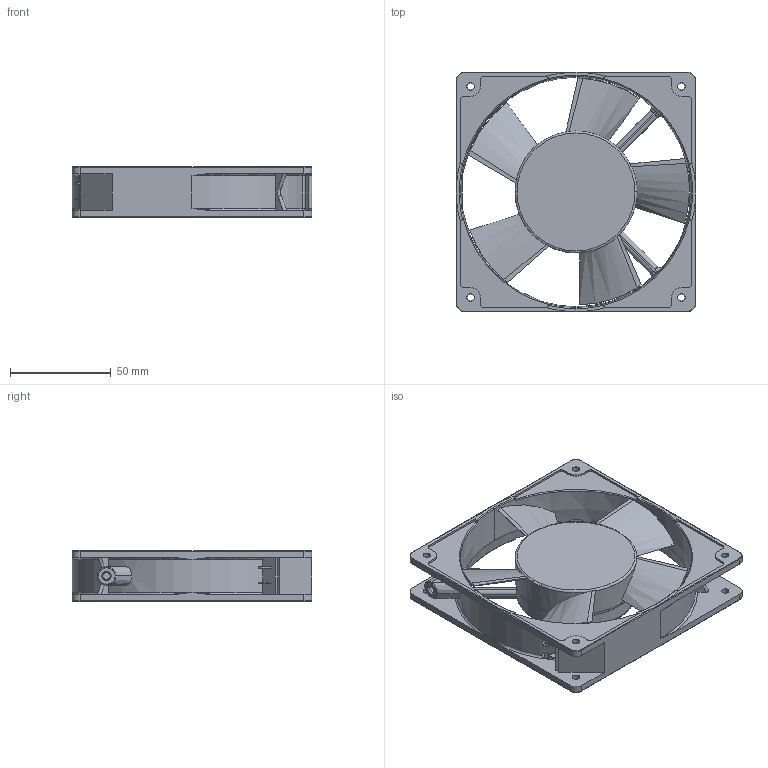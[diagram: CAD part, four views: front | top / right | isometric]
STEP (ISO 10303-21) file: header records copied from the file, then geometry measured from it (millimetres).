
FILE_DESCRIPTION (( 'STEP AP214' ), '1' );
FILE_NAME ('□120mmx25mm.STEP', '2017-07-27T09:23:13', ( '' ), ( '' ), 'SwSTEP 2.0', 'SolidWorks 2017', '' );
FILE_SCHEMA (( 'AUTOMOTIVE_DESIGN' ));
Length unit declared in the file: millimetre
Products named in the file (1): □120mmx25mm
Bounding box: 119.15 x 119.15 x 25.3 mm (x, y, z)
Volume: 124224.6 mm3; surface area: 53491.7 mm2
Topology: 1 solids, 1 shells, 431 faces, 1215 edges, 786 vertices
Faces by surface type: cylinder 144, plane 144, bspline 119, cone 22, torus 2
Entity records: 20379 total; most frequent: CARTESIAN_POINT 9570, ORIENTED_EDGE 2428, DIRECTION 1887, EDGE_CURVE 1214, VERTEX_POINT 786, AXIS2_PLACEMENT_3D 708, LINE 471, VECTOR 471
